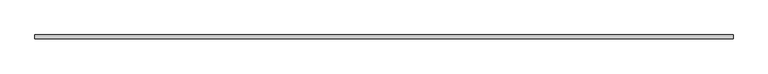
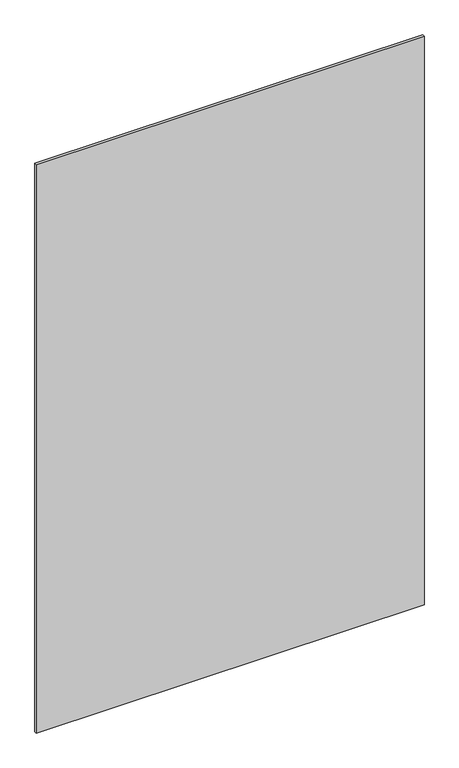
"""IFC4 building model written with IfcOpenShell, lengths in millimetres: plate geometry, 系統嵌板 : 玻璃 1.0cm."""

from ifc_helpers import new_model, si_unit, origin, origin_with_axes, place, context, project, spatial, polyline, outline, extrude, source, transform, mapped, element, save


def plate_ebbde56a(model_context):
    return source(origin(), model_context, "Body", "SweptSolid", [
        extrude(outline(polyline([(887.5, -5.0), (-887.5, -5.0), (-887.5, 5.0), (887.5, 5.0), (887.5, -5.0)])), origin_with_axes(), (0.0, 0.0, 1.0), 2750.0),
    ])


if __name__ == "__main__":
    model = new_model("IFC4")
    model_context = context("Model", 3, world=origin())
    ifc_project = project(units=[si_unit("LENGTHUNIT", "METRE", prefix="MILLI")], contexts=[model_context])
    site = spatial("IfcSite", under=ifc_project)
    building = spatial("IfcBuilding", under=site)
    placement = place(None, origin())
    plate_shape = plate_ebbde56a(model_context)
    element("IfcPlate", 1, ObjectType="系統嵌板 : 玻璃 1.0cm", at=placement, inside=building, context=model_context, shape_type="MappedRepresentation", body=[
        mapped(plate_shape, transform((0.0, 0.0, 0.0), x_axis=(1.0, 0.0, 0.0), y_axis=(0.0, 1.0, 0.0), z_axis=(0.0, 0.0, 1.0))),
    ])
    save(model, "model.ifc")
